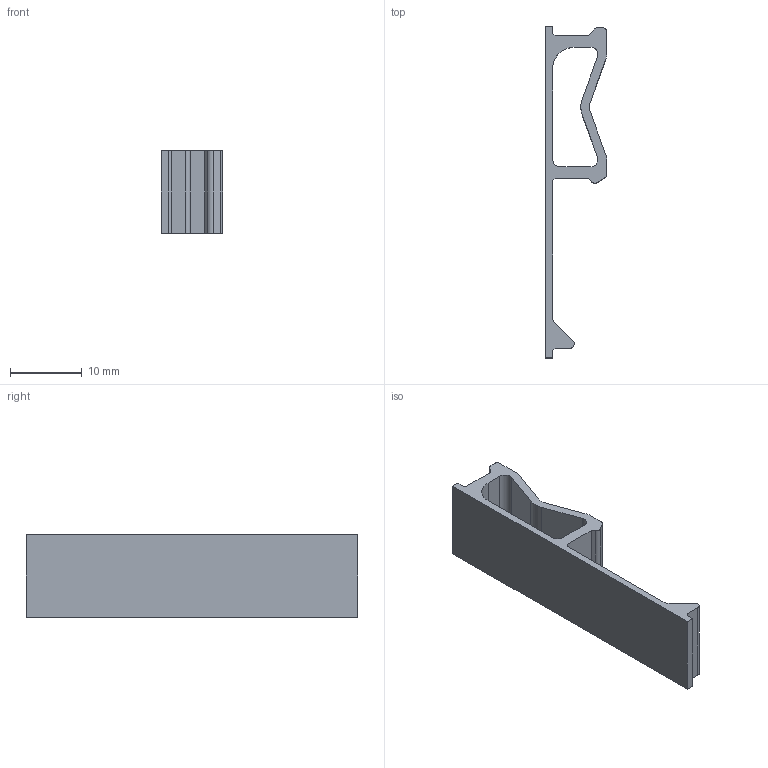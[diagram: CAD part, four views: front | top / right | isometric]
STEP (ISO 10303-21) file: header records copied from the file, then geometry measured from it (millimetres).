
FILE_DESCRIPTION(('FreeCAD Model'),'2;1');
FILE_NAME('Open CASCADE Shape Model','2023-05-07T23:03:28',('Author'),( ''),'Open CASCADE STEP processor 7.6','FreeCAD','Unknown');
FILE_SCHEMA(('AUTOMOTIVE_DESIGN { 1 0 10303 214 1 1 1 1 }'));
Length unit declared in the file: millimetre
Products named in the file (1): HSW Ez-V2 Hook BASE v2.2
Bounding box: 8.5 x 46.1 x 11.5 mm (x, y, z)
Volume: 1186.3 mm3; surface area: 2047 mm2
Topology: 1 solids, 1 shells, 79 faces, 222 edges, 148 vertices
Faces by surface type: plane 62, cylinder 14, bspline 3
Entity records: 5692 total; most frequent: CARTESIAN_POINT 1249, DIRECTION 808, LINE 580, VECTOR 580, ORIENTED_EDGE 444, PCURVE 444, DEFINITIONAL_REPRESENTATION 444, EDGE_CURVE 222
